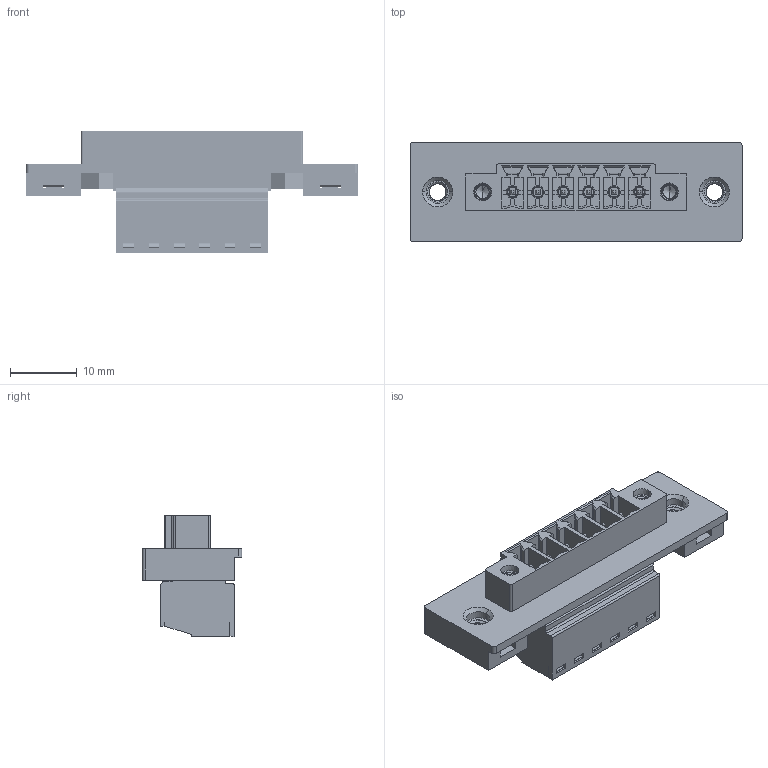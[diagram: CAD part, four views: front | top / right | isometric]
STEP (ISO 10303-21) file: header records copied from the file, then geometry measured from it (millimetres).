
FILE_DESCRIPTION((''),'2;1');
FILE_NAME('6P_ASM','2025-10-13T',('renkang.li'),(''),'CREO PARAMETRIC BY PTC INC, 2016260','CREO PARAMETRIC BY PTC INC, 2016260','');
FILE_SCHEMA(('CONFIG_CONTROL_DESIGN'));
Products named in the file (1): 6P_ASM
Bounding box: 49.85 x 15 x 18.3 mm (x, y, z)
Volume: 3629 mm3; surface area: 8436.6 mm2
Topology: 1 solids, 123 shells, 3234 faces, 8210 edges, 5255 vertices
Faces by surface type: plane 2076, cylinder 546, bspline 442, cone 102, torus 62, sphere 6
Entity records: 132638 total; most frequent: CARTESIAN_POINT 58561, ORIENTED_EDGE 16360, DIRECTION 13038, EDGE_CURVE 8180, VECTOR 5798, LINE 5798, VERTEX_POINT 5245, AXIS2_PLACEMENT_3D 3620
